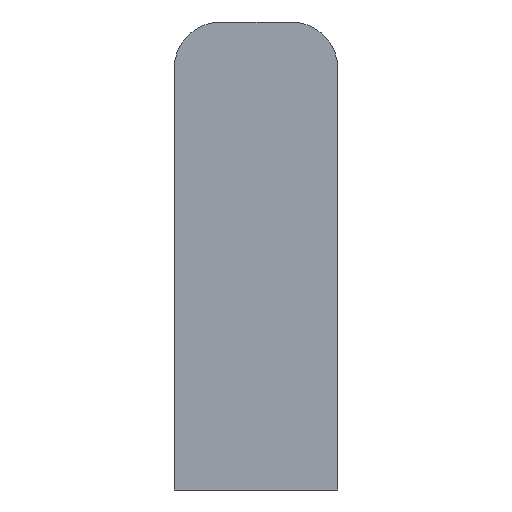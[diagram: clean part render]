
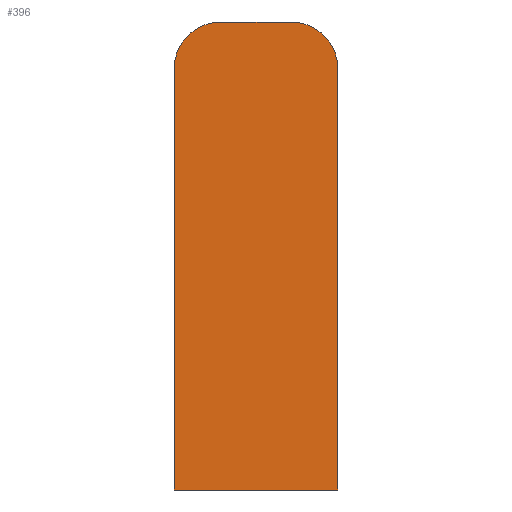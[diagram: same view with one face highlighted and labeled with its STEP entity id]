
A CAD part, front view. The second image highlights one B-rep face of the part: STEP entity #396.
In plain terms, the highlighted planar face has unit normal (0, -1, 0).
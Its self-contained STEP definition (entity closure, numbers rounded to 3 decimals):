
#7 = VERTEX_POINT ( 'NONE', #106 ) ;
#8 = VERTEX_POINT ( 'NONE', #107 ) ;
#11 = VERTEX_POINT ( 'NONE', #31 ) ;
#22 = VERTEX_POINT ( 'NONE', #33 ) ;
#28 = VERTEX_POINT ( 'NONE', #37 ) ;
#31 = CARTESIAN_POINT ( 'NONE',  ( 2.25, 0., 13.5 ) ) ;
#33 = CARTESIAN_POINT ( 'NONE',  ( -5.25, 0., -16.5 ) ) ;
#37 = CARTESIAN_POINT ( 'NONE',  ( -2.25, 0., 13.5 ) ) ;
#46 = CARTESIAN_POINT ( 'NONE',  ( -5.25, 0., 10.5 ) ) ;
#66 = CARTESIAN_POINT ( 'NONE',  ( 5.25, 0., -16.5 ) ) ;
#71 = DIRECTION ( 'NONE',  ( 0., 0., 1. ) ) ;
#72 = CARTESIAN_POINT ( 'NONE',  ( 2.25, 0., 10.5 ) ) ;
#73 = DIRECTION ( 'NONE',  ( 0., -1., 0. ) ) ;
#74 = DIRECTION ( 'NONE',  ( -1., 0., 0. ) ) ;
#101 = CARTESIAN_POINT ( 'NONE',  ( 5.25, 0., -16.5 ) ) ;
#103 = CARTESIAN_POINT ( 'NONE',  ( -2.25, 0., 10.5 ) ) ;
#106 = CARTESIAN_POINT ( 'NONE',  ( 5.25, 0., 10.5 ) ) ;
#107 = CARTESIAN_POINT ( 'NONE',  ( 5.25, 0., -16.5 ) ) ;
#109 = CARTESIAN_POINT ( 'NONE',  ( 2.25, 0., 13.5 ) ) ;
#111 = DIRECTION ( 'NONE',  ( -1., 0., 0. ) ) ;
#112 = DIRECTION ( 'NONE',  ( 0., -1., 0. ) ) ;
#115 = VERTEX_POINT ( 'NONE', #46 ) ;
#119 = CARTESIAN_POINT ( 'NONE',  ( -5.25, 0., -16.5 ) ) ;
#120 = DIRECTION ( 'NONE',  ( 0., 0., -1. ) ) ;
#123 = DIRECTION ( 'NONE',  ( -1., 0., 0. ) ) ;
#132 = DIRECTION ( 'NONE',  ( 1., 0., 0. ) ) ;
#133 = CARTESIAN_POINT ( 'NONE',  ( 0., 0., -1.5 ) ) ;
#136 = PLANE ( 'NONE',  #230 ) ;
#138 = DIRECTION ( 'NONE',  ( 0., 1., 0. ) ) ;
#139 = DIRECTION ( 'NONE',  ( -1., 0., 0. ) ) ;
#192 = EDGE_CURVE ( 'NONE', #8, #7, #331, .T. ) ;
#193 = EDGE_CURVE ( 'NONE', #7, #11, #336, .T. ) ;
#207 = EDGE_CURVE ( 'NONE', #115, #22, #358, .T. ) ;
#209 = EDGE_CURVE ( 'NONE', #28, #115, #364, .T. ) ;
#212 = EDGE_CURVE ( 'NONE', #11, #28, #367, .T. ) ;
#216 = EDGE_CURVE ( 'NONE', #22, #8, #370, .T. ) ;
#219 = AXIS2_PLACEMENT_3D ( 'NONE', #72, #73, #74 ) ;
#228 = AXIS2_PLACEMENT_3D ( 'NONE', #103, #112, #111 ) ;
#230 = AXIS2_PLACEMENT_3D ( 'NONE', #133, #138, #139 ) ;
#277 = ORIENTED_EDGE ( 'NONE', *, *, #216, .T. ) ;
#278 = ORIENTED_EDGE ( 'NONE', *, *, #207, .T. ) ;
#279 = ORIENTED_EDGE ( 'NONE', *, *, #209, .T. ) ;
#280 = ORIENTED_EDGE ( 'NONE', *, *, #212, .T. ) ;
#281 = ORIENTED_EDGE ( 'NONE', *, *, #193, .T. ) ;
#282 = ORIENTED_EDGE ( 'NONE', *, *, #192, .T. ) ;
#329 = VECTOR ( 'NONE', #71, 1000. ) ;
#331 = LINE ( 'NONE', #66, #329 ) ;
#336 = CIRCLE ( 'NONE', #219, 3. ) ;
#358 = LINE ( 'NONE', #119, #359 ) ;
#359 = VECTOR ( 'NONE', #120, 1000. ) ;
#364 = CIRCLE ( 'NONE', #228, 3. ) ;
#367 = LINE ( 'NONE', #109, #368 ) ;
#368 = VECTOR ( 'NONE', #123, 1000. ) ;
#369 = FACE_OUTER_BOUND ( 'NONE', #409, .T. ) ;
#370 = LINE ( 'NONE', #101, #374 ) ;
#374 = VECTOR ( 'NONE', #132, 1000. ) ;
#396 = ADVANCED_FACE ( 'NONE', ( #369 ), #136, .F. ) ;
#409 = EDGE_LOOP ( 'NONE', ( #282, #281, #280, #279, #278, #277 ) ) ;
